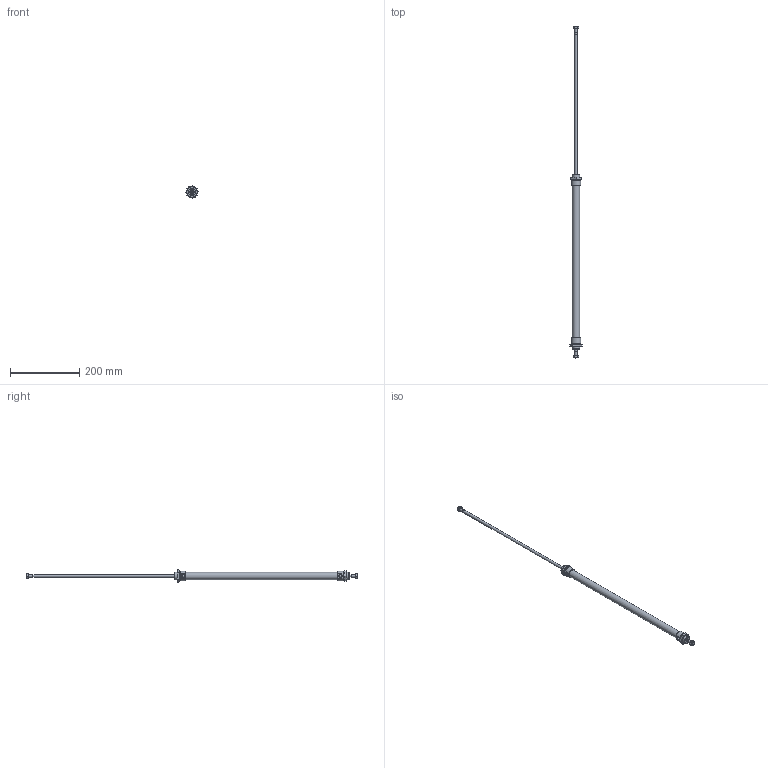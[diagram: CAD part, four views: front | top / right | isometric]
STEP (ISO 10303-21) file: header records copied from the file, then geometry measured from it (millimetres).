
FILE_DESCRIPTION((''),'2;1');
FILE_NAME('I:\Area Tecnica\Disegni\VARIE-3D\Componenti\1280\1282_##_####_#\1282_20_0400.iam.stp','2009-06-03T15:26:22',(''),(''),'Autodesk Inventor 2010','Autodesk Inventor 2010','');
FILE_SCHEMA(('AUTOMOTIVE_DESIGN { 1 0 10303 214 1 1 1 1 }'));
Length unit declared in the file: millimetre
Products named in the file (5): 1282_20_0400; C1282_20_400; S1282_20_400; 1200_20_05; 1200_20_06
Assembly tree (6 placements, depth 2):
  1282_20_0400
    C1282_20_400
    S1282_20_400
    1200_20_05  x2
    1200_20_06  x2
Bounding box: 34.64 x 956 x 34.64 mm (x, y, z)
Volume: 213970.6 mm3; surface area: 77590.2 mm2
Topology: 6 solids, 6 shells, 141 faces, 309 edges, 184 vertices
Faces by surface type: plane 60, cone 52, bspline 18, cylinder 11
Full cylindrical faces by diameter (mm): 6.5 x2, 8 x4, 21.2 x1, 22 x2
Entity records: 2813 total; most frequent: CARTESIAN_POINT 727, DIRECTION 386, ORIENTED_EDGE 352, EDGE_CURVE 176, AXIS2_PLACEMENT_3D 169, EDGE_LOOP 132, VERTEX_POINT 116, STYLED_ITEM 99
